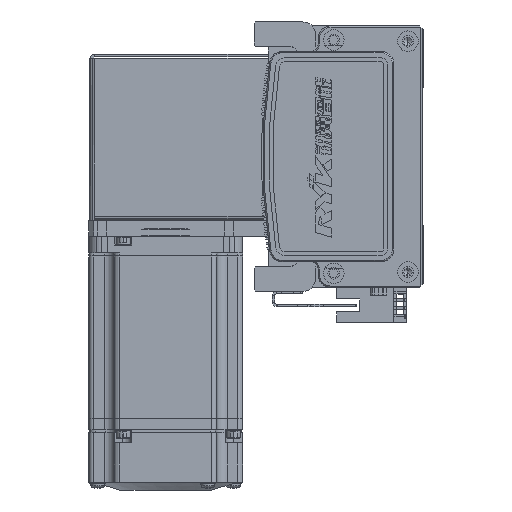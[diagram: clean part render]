
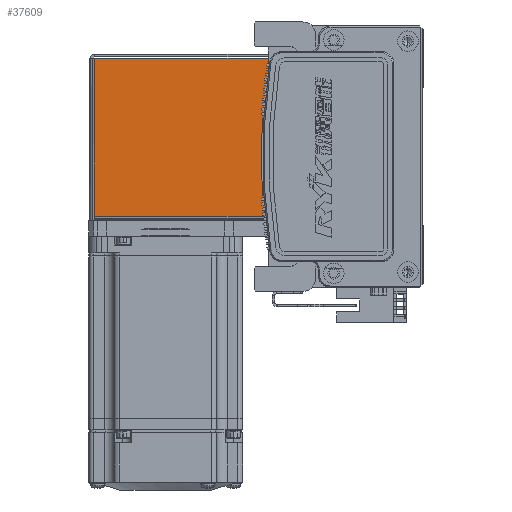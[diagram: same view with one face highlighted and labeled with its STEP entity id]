
A CAD part, left-side view. The second image highlights one B-rep face of the part: STEP entity #37609.
In plain terms, the highlighted planar face has unit normal (-1, 0, 0) as drawn and (0, 0, 1) by its records, which use the part's own axes.
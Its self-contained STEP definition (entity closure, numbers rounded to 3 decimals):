
#4121 = DIRECTION ( 'NONE',  ( -1., 0., 0. ) ) ;
#9670 = ORIENTED_EDGE ( 'NONE', *, *, #58323, .T. ) ;
#11427 = DIRECTION ( 'NONE',  ( 0., 1., 0. ) ) ;
#17971 = LINE ( 'NONE', #38706, #72184 ) ;
#20001 = CARTESIAN_POINT ( 'NONE',  ( -30.793, 68.5, 35. ) ) ;
#20465 = CARTESIAN_POINT ( 'NONE',  ( 0., 0., 35. ) ) ;
#22293 = LINE ( 'NONE', #53775, #61626 ) ;
#24899 = DIRECTION ( 'NONE',  ( 0., 1., 0. ) ) ;
#25700 = ORIENTED_EDGE ( 'NONE', *, *, #37023, .T. ) ;
#26399 = DIRECTION ( 'NONE',  ( -1., 0., 0. ) ) ;
#30819 = EDGE_LOOP ( 'NONE', ( #25700, #9670, #62571, #56427 ) ) ;
#31495 = VERTEX_POINT ( 'NONE', #51160 ) ;
#32539 = VECTOR ( 'NONE', #71389, 1000. ) ;
#33857 = AXIS2_PLACEMENT_3D ( 'NONE', #20465, #71270, #4121 ) ;
#34223 = CARTESIAN_POINT ( 'NONE',  ( 30.763, 68.5, 35. ) ) ;
#37023 = EDGE_CURVE ( 'NONE', #63730, #67512, #41810, .T. ) ;
#37609 = ADVANCED_FACE ( 'NONE', ( #53912 ), #59762, .F. ) ;
#38706 = CARTESIAN_POINT ( 'NONE',  ( -30.793, 0., 35. ) ) ;
#41810 = LINE ( 'NONE', #63254, #61002 ) ;
#43261 = CARTESIAN_POINT ( 'NONE',  ( -32.5, 0.737, 35. ) ) ;
#43615 = EDGE_CURVE ( 'NONE', #63730, #31495, #59652, .T. ) ;
#48752 = EDGE_CURVE ( 'NONE', #31495, #52569, #17971, .T. ) ;
#51160 = CARTESIAN_POINT ( 'NONE',  ( -30.793, 0.737, 35. ) ) ;
#52569 = VERTEX_POINT ( 'NONE', #20001 ) ;
#53775 = CARTESIAN_POINT ( 'NONE',  ( 0., 68.5, 35. ) ) ;
#53912 = FACE_OUTER_BOUND ( 'NONE', #30819, .T. ) ;
#56427 = ORIENTED_EDGE ( 'NONE', *, *, #43615, .F. ) ;
#58323 = EDGE_CURVE ( 'NONE', #67512, #52569, #22293, .T. ) ;
#59652 = LINE ( 'NONE', #43261, #32539 ) ;
#59762 = PLANE ( 'NONE',  #33857 ) ;
#61002 = VECTOR ( 'NONE', #24899, 1000. ) ;
#61626 = VECTOR ( 'NONE', #26399, 1000. ) ;
#62571 = ORIENTED_EDGE ( 'NONE', *, *, #48752, .F. ) ;
#63254 = CARTESIAN_POINT ( 'NONE',  ( 30.763, 0.737, 35. ) ) ;
#63730 = VERTEX_POINT ( 'NONE', #71655 ) ;
#67512 = VERTEX_POINT ( 'NONE', #34223 ) ;
#71270 = DIRECTION ( 'NONE',  ( 0., 0., -1. ) ) ;
#71389 = DIRECTION ( 'NONE',  ( -1., 0., 0. ) ) ;
#71655 = CARTESIAN_POINT ( 'NONE',  ( 30.763, 0.737, 35. ) ) ;
#72184 = VECTOR ( 'NONE', #11427, 1000. ) ;
